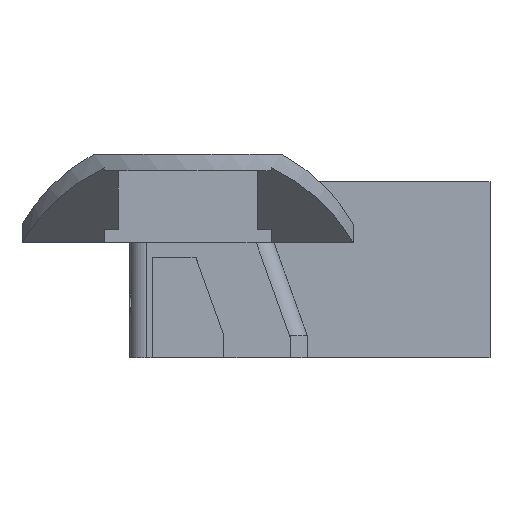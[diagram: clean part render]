
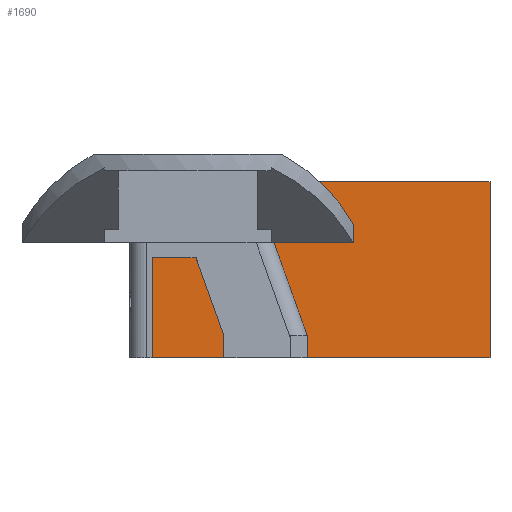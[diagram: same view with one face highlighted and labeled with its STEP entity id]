
A CAD part, front view. The second image highlights one B-rep face of the part: STEP entity #1690.
In plain terms, the highlighted planar face has unit normal (0, -1, 0).
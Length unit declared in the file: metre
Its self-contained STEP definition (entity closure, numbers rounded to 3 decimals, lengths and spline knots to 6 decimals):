
#522=ORIENTED_EDGE('',*,*,#751,.F.);
#523=ORIENTED_EDGE('',*,*,#741,.T.);
#524=ORIENTED_EDGE('',*,*,#720,.T.);
#525=ORIENTED_EDGE('',*,*,#777,.F.);
#720=EDGE_CURVE('',#905,#904,#1087,.T.);
#741=EDGE_CURVE('',#922,#905,#1101,.T.);
#751=EDGE_CURVE('',#922,#926,#1108,.T.);
#777=EDGE_CURVE('',#926,#904,#1132,.T.);
#904=VERTEX_POINT('',#2637);
#905=VERTEX_POINT('',#2639);
#922=VERTEX_POINT('',#2679);
#926=VERTEX_POINT('',#2703);
#1087=LINE('',#2638,#1285);
#1101=LINE('',#2678,#1299);
#1108=LINE('',#2702,#1306);
#1132=LINE('',#2760,#1330);
#1285=VECTOR('',#2148,1.);
#1299=VECTOR('',#2180,1.);
#1306=VECTOR('',#2199,1.);
#1330=VECTOR('',#2269,1.);
#1431=EDGE_LOOP('',(#522,#523,#524,#525));
#1534=FACE_BOUND('',#1431,.T.);
#1605=PLANE('',#1827);
#1690=ADVANCED_FACE('',(#1534),#1605,.F.);
#1827=AXIS2_PLACEMENT_3D('',#2759,#2267,#2268);
#2148=DIRECTION('',(1.,0.,0.));
#2180=DIRECTION('',(0.,0.,-1.));
#2199=DIRECTION('',(1.,0.,0.));
#2267=DIRECTION('',(0.,1.,0.));
#2268=DIRECTION('',(0.,0.,1.));
#2269=DIRECTION('',(0.,0.,-1.));
#2637=CARTESIAN_POINT('',(0.0544,0.055168,0.005));
#2638=CARTESIAN_POINT('',(0.024,0.055168,0.005));
#2639=CARTESIAN_POINT('',(-0.0064,0.055168,0.005));
#2678=CARTESIAN_POINT('',(-0.0064,0.055168,0.036702));
#2679=CARTESIAN_POINT('',(-0.0064,0.055168,0.0367));
#2702=CARTESIAN_POINT('',(0.024,0.055168,0.0367));
#2703=CARTESIAN_POINT('',(0.0544,0.055168,0.0367));
#2759=CARTESIAN_POINT('',(0.024,0.055168,0.036702));
#2760=CARTESIAN_POINT('',(0.0544,0.055168,0.036702));
